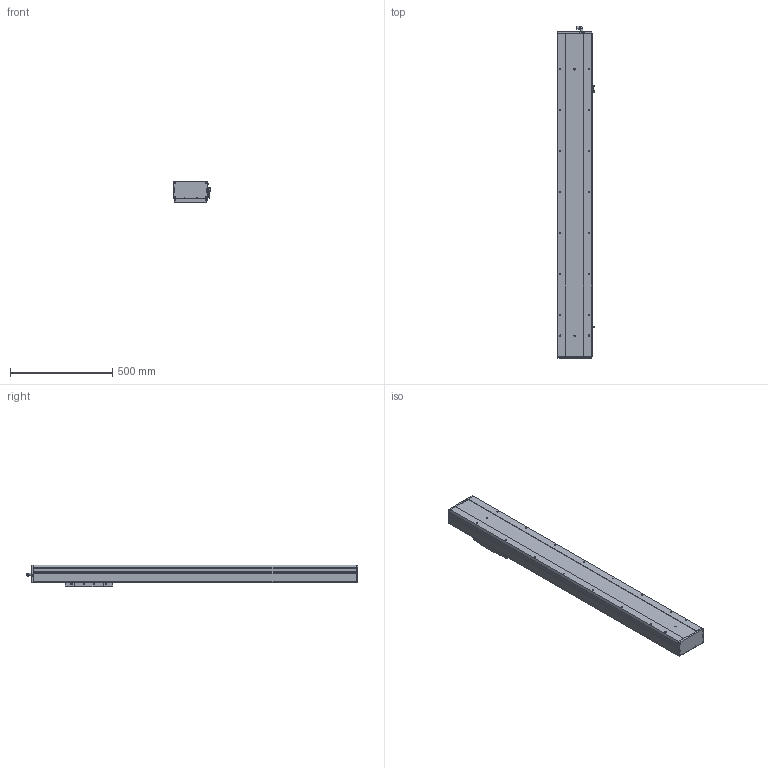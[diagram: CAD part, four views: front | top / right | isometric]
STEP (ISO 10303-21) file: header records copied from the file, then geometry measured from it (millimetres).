
FILE_DESCRIPTION (( 'STEP AP203' ), '1' );
FILE_NAME ('23.STEP', '2021-01-06T01:43:42', ( '' ), ( '' ), 'SwSTEP 2.0', 'SolidWorks 2016', '' );
FILE_SCHEMA (( 'CONFIG_CONTROL_DESIGN' ));
Length unit declared in the file: millimetre
Products named in the file (9): BCH17-M-02; BCH17-M-10; BCH17-M-04; 23; BCH17-M-菁釱; BCH17-M-01; BCH17-M-03; BCH17-M-12; BCH17-M-HZ
Assembly tree (11 placements, depth 2):
  23
    BCH17-M-菁釱
    BCH17-M-01
    BCH17-M-02
    BCH17-M-03  x2
    BCH17-M-04  x3
    BCH17-M-10
    BCH17-M-12
    BCH17-M-HZ
Bounding box: 183.7 x 1619.93 x 107 mm (x, y, z)
Volume: 10992448.1 mm3; surface area: 1772165 mm2
Topology: 18 solids, 18 shells, 1489 faces, 4110 edges, 2615 vertices
Faces by surface type: plane 800, cylinder 549, cone 118, sphere 12, bspline 8, torus 2
Entity records: 41853 total; most frequent: CARTESIAN_POINT 9954, ORIENTED_EDGE 6668, DIRECTION 6180, EDGE_CURVE 3334, VERTEX_POINT 2163, AXIS2_PLACEMENT_3D 2117, VECTOR 1946, LINE 1946
